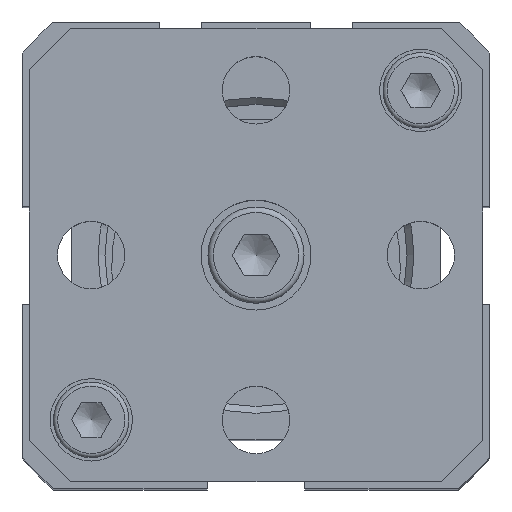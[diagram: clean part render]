
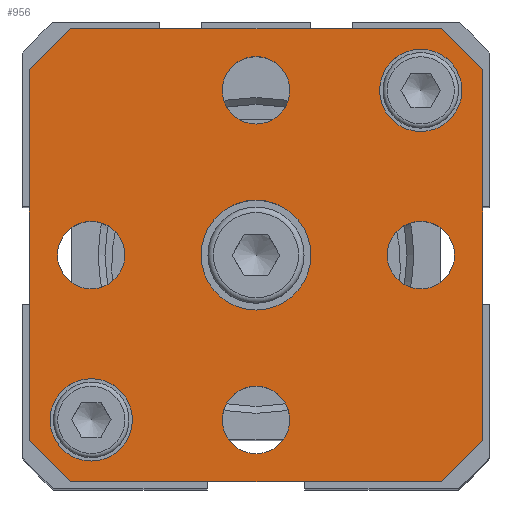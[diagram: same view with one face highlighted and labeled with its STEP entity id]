
A CAD part, top view. The second image highlights one B-rep face of the part: STEP entity #956.
In plain terms, the highlighted planar face has unit normal (0, 0, 1).
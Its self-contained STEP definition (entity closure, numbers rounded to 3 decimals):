
#273=CARTESIAN_POINT('',(9.24,13.683,63.));
#274=VERTEX_POINT('',#273);
#275=CARTESIAN_POINT('',(12.24,13.683,63.));
#276=DIRECTION('',(0.0,0.0,-1.0));
#277=DIRECTION('',(-1.0,0.0,0.0));
#278=AXIS2_PLACEMENT_3D('',#275,#276,#277);
#279=CIRCLE('',#278,3.);
#280=EDGE_CURVE('',#274,#274,#279,.T.);
#342=CARTESIAN_POINT('',(-14.76,-10.317,63.));
#343=VERTEX_POINT('',#342);
#344=CARTESIAN_POINT('',(-11.76,-10.317,63.));
#345=DIRECTION('',(0.0,0.0,-1.0));
#346=DIRECTION('',(-1.0,0.0,0.0));
#347=AXIS2_PLACEMENT_3D('',#344,#345,#346);
#348=CIRCLE('',#347,3.);
#349=EDGE_CURVE('',#343,#343,#348,.T.);
#383=CARTESIAN_POINT('',(-14.218,1.683,63.));
#384=VERTEX_POINT('',#383);
#385=CARTESIAN_POINT('',(-11.76,1.683,63.));
#386=DIRECTION('',(0.0,0.0,-1.0));
#387=DIRECTION('',(-1.0,0.0,0.0));
#388=AXIS2_PLACEMENT_3D('',#385,#386,#387);
#389=CIRCLE('',#388,2.459);
#390=EDGE_CURVE('',#384,#384,#389,.T.);
#432=CARTESIAN_POINT('',(-2.218,13.683,63.));
#433=VERTEX_POINT('',#432);
#434=CARTESIAN_POINT('',(0.24,13.683,63.));
#435=DIRECTION('',(0.0,0.0,-1.0));
#436=DIRECTION('',(-1.0,0.0,0.0));
#437=AXIS2_PLACEMENT_3D('',#434,#435,#436);
#438=CIRCLE('',#437,2.459);
#439=EDGE_CURVE('',#433,#433,#438,.T.);
#481=CARTESIAN_POINT('',(9.782,1.683,63.));
#482=VERTEX_POINT('',#481);
#483=CARTESIAN_POINT('',(12.24,1.683,63.));
#484=DIRECTION('',(0.0,0.0,-1.0));
#485=DIRECTION('',(-1.0,0.0,0.0));
#486=AXIS2_PLACEMENT_3D('',#483,#484,#485);
#487=CIRCLE('',#486,2.459);
#488=EDGE_CURVE('',#482,#482,#487,.T.);
#530=CARTESIAN_POINT('',(-2.218,-10.317,63.));
#531=VERTEX_POINT('',#530);
#532=CARTESIAN_POINT('',(0.24,-10.317,63.));
#533=DIRECTION('',(0.0,0.0,-1.0));
#534=DIRECTION('',(-1.0,0.0,0.0));
#535=AXIS2_PLACEMENT_3D('',#532,#533,#534);
#536=CIRCLE('',#535,2.459);
#537=EDGE_CURVE('',#531,#531,#536,.T.);
#579=CARTESIAN_POINT('',(-3.76,1.683,63.));
#580=VERTEX_POINT('',#579);
#581=CARTESIAN_POINT('',(0.24,1.683,63.));
#582=DIRECTION('',(0.0,0.0,-1.0));
#583=DIRECTION('',(-1.0,0.0,0.0));
#584=AXIS2_PLACEMENT_3D('',#581,#582,#583);
#585=CIRCLE('',#584,4.0);
#586=EDGE_CURVE('',#580,#580,#585,.T.);
#640=CARTESIAN_POINT('',(16.74,15.183,63.));
#641=VERTEX_POINT('',#640);
#642=CARTESIAN_POINT('',(16.74,-11.817,63.));
#643=VERTEX_POINT('',#642);
#644=CARTESIAN_POINT('',(16.74,15.183,63.));
#645=DIRECTION('',(0.0,-1.0,0.0));
#646=VECTOR('',#645,27.);
#647=LINE('',#644,#646);
#648=EDGE_CURVE('',#641,#643,#647,.T.);
#680=CARTESIAN_POINT('',(13.74,-14.817,63.));
#681=VERTEX_POINT('',#680);
#682=CARTESIAN_POINT('',(16.74,-11.817,63.));
#683=DIRECTION('',(-0.707,-0.707,0.0));
#684=VECTOR('',#683,4.243);
#685=LINE('',#682,#684);
#686=EDGE_CURVE('',#643,#681,#685,.T.);
#711=CARTESIAN_POINT('',(-13.26,-14.817,63.));
#712=VERTEX_POINT('',#711);
#713=CARTESIAN_POINT('',(13.74,-14.817,63.));
#714=DIRECTION('',(-1.0,0.0,0.0));
#715=VECTOR('',#714,27.);
#716=LINE('',#713,#715);
#717=EDGE_CURVE('',#681,#712,#716,.T.);
#742=CARTESIAN_POINT('',(-16.26,-11.817,63.));
#743=VERTEX_POINT('',#742);
#744=CARTESIAN_POINT('',(-13.26,-14.817,63.));
#745=DIRECTION('',(-0.707,0.707,0.0));
#746=VECTOR('',#745,4.243);
#747=LINE('',#744,#746);
#748=EDGE_CURVE('',#712,#743,#747,.T.);
#773=CARTESIAN_POINT('',(-16.26,15.183,63.));
#774=VERTEX_POINT('',#773);
#775=CARTESIAN_POINT('',(-16.26,-11.817,63.));
#776=DIRECTION('',(0.0,1.0,0.0));
#777=VECTOR('',#776,27.);
#778=LINE('',#775,#777);
#779=EDGE_CURVE('',#743,#774,#778,.T.);
#804=CARTESIAN_POINT('',(-13.26,18.183,63.));
#805=VERTEX_POINT('',#804);
#806=CARTESIAN_POINT('',(-16.26,15.183,63.));
#807=DIRECTION('',(0.707,0.707,0.0));
#808=VECTOR('',#807,4.243);
#809=LINE('',#806,#808);
#810=EDGE_CURVE('',#774,#805,#809,.T.);
#835=CARTESIAN_POINT('',(13.74,18.183,63.));
#836=VERTEX_POINT('',#835);
#837=CARTESIAN_POINT('',(-13.26,18.183,63.));
#838=DIRECTION('',(1.0,0.0,0.0));
#839=VECTOR('',#838,27.);
#840=LINE('',#837,#839);
#841=EDGE_CURVE('',#805,#836,#840,.T.);
#866=CARTESIAN_POINT('',(13.74,18.183,63.));
#867=DIRECTION('',(0.707,-0.707,0.0));
#868=VECTOR('',#867,4.243);
#869=LINE('',#866,#868);
#870=EDGE_CURVE('',#836,#641,#869,.T.);
#920=CARTESIAN_POINT('',(0.24,1.683,63.));
#921=DIRECTION('',(0.0,0.0,1.0));
#922=DIRECTION('',(1.0,0.0,0.0));
#923=AXIS2_PLACEMENT_3D('',#920,#921,#922);
#924=PLANE('',#923);
#925=ORIENTED_EDGE('',*,*,#648,.F.);
#926=ORIENTED_EDGE('',*,*,#870,.F.);
#927=ORIENTED_EDGE('',*,*,#841,.F.);
#928=ORIENTED_EDGE('',*,*,#810,.F.);
#929=ORIENTED_EDGE('',*,*,#779,.F.);
#930=ORIENTED_EDGE('',*,*,#748,.F.);
#931=ORIENTED_EDGE('',*,*,#717,.F.);
#932=ORIENTED_EDGE('',*,*,#686,.F.);
#933=EDGE_LOOP('',(#925,#926,#927,#928,#929,#930,#931,#932));
#934=FACE_OUTER_BOUND('',#933,.T.);
#935=ORIENTED_EDGE('',*,*,#280,.T.);
#936=EDGE_LOOP('',(#935));
#937=FACE_BOUND('',#936,.T.);
#938=ORIENTED_EDGE('',*,*,#349,.T.);
#939=EDGE_LOOP('',(#938));
#940=FACE_BOUND('',#939,.T.);
#941=ORIENTED_EDGE('',*,*,#390,.T.);
#942=EDGE_LOOP('',(#941));
#943=FACE_BOUND('',#942,.T.);
#944=ORIENTED_EDGE('',*,*,#439,.T.);
#945=EDGE_LOOP('',(#944));
#946=FACE_BOUND('',#945,.T.);
#947=ORIENTED_EDGE('',*,*,#488,.T.);
#948=EDGE_LOOP('',(#947));
#949=FACE_BOUND('',#948,.T.);
#950=ORIENTED_EDGE('',*,*,#537,.T.);
#951=EDGE_LOOP('',(#950));
#952=FACE_BOUND('',#951,.T.);
#953=ORIENTED_EDGE('',*,*,#586,.T.);
#954=EDGE_LOOP('',(#953));
#955=FACE_BOUND('',#954,.T.);
#956=ADVANCED_FACE('',(#934,#937,#940,#943,#946,#949,#952,#955),#924,.T.);
